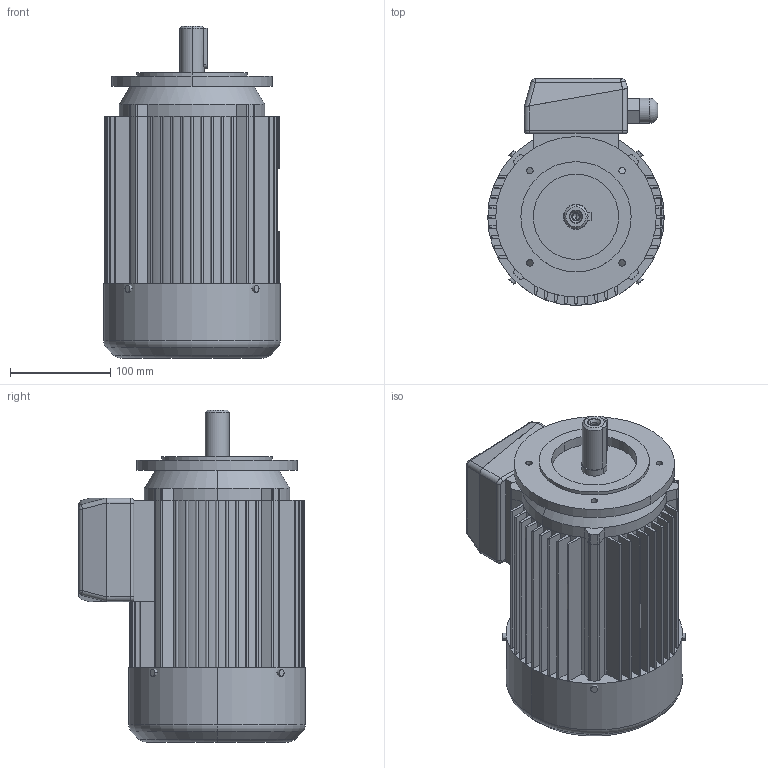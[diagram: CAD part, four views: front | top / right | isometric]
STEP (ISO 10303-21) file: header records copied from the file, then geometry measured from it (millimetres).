
FILE_DESCRIPTION (( 'STEP AP203' ), '1' );
FILE_NAME ('2SIEK90L2-B14-C1.STEP', '2013-01-07T12:50:51', ( 'INDUKTA' ), ( 'CANTONI MOTOR' ), 'SwSTEP 2.0', 'SolidWorks 2003064', '' );
FILE_SCHEMA (( 'CONFIG_CONTROL_DESIGN' ));
Length unit declared in the file: millimetre
Products named in the file (1): 2SIEK90L2-B14-C1
Bounding box: 176 x 226 x 331 mm (x, y, z)
Volume: 6190535.3 mm3; surface area: 494112.9 mm2
Topology: 11 solids, 11 shells, 376 faces, 999 edges, 640 vertices
Faces by surface type: cylinder 178, plane 170, cone 14, torus 10, sphere 4
Entity records: 11802 total; most frequent: DIRECTION 2146, CARTESIAN_POINT 2071, ORIENTED_EDGE 1986, EDGE_CURVE 993, AXIS2_PLACEMENT_3D 787, VERTEX_POINT 640, LINE 572, VECTOR 572
